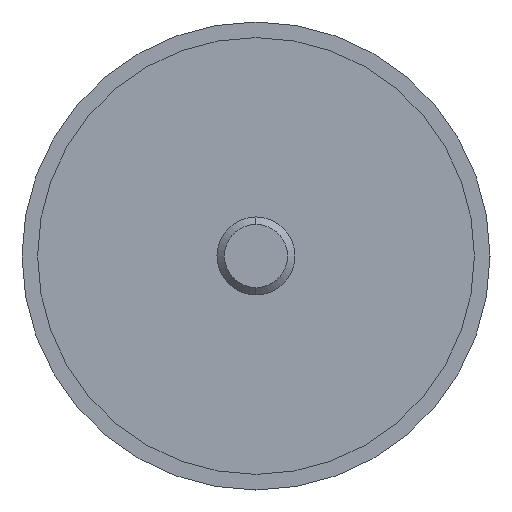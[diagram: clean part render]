
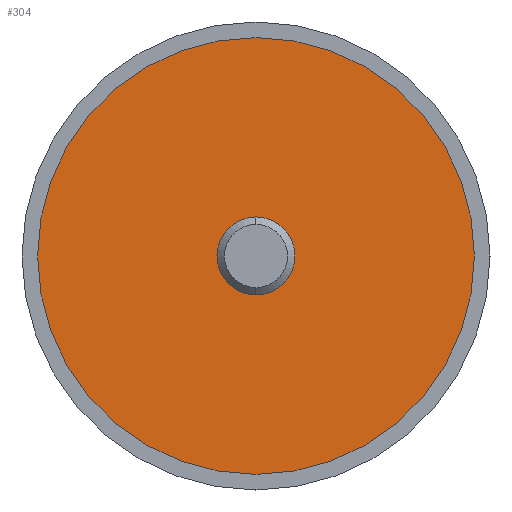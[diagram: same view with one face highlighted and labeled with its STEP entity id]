
A CAD part, left-side view. The second image highlights one B-rep face of the part: STEP entity #304.
In plain terms, the highlighted planar face has unit normal (-1, 0, 0).
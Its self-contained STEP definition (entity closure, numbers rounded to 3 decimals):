
#2 = DIRECTION ( 'NONE',  ( 1., 0., 0. ) ) ;
#6 = PLANE ( 'NONE',  #645 ) ;
#13 = DIRECTION ( 'NONE',  ( 0., 0., 1. ) ) ;
#15 = CARTESIAN_POINT ( 'NONE',  ( -14.99, 0., 0. ) ) ;
#18 = CIRCLE ( 'NONE', #605, 28. ) ;
#68 = CARTESIAN_POINT ( 'NONE',  ( -14.99, 0., 0. ) ) ;
#71 = DIRECTION ( 'NONE',  ( 0., 0., -1. ) ) ;
#100 = EDGE_CURVE ( 'NONE', #420, #115, #644, .T. ) ;
#106 = EDGE_LOOP ( 'NONE', ( #309, #149 ) ) ;
#115 = VERTEX_POINT ( 'NONE', #131 ) ;
#131 = CARTESIAN_POINT ( 'NONE',  ( -14.99, 0., -28. ) ) ;
#134 = CARTESIAN_POINT ( 'NONE',  ( -14.99, 0., 5. ) ) ;
#149 = ORIENTED_EDGE ( 'NONE', *, *, #463, .F. ) ;
#178 = AXIS2_PLACEMENT_3D ( 'NONE', #318, #529, #479 ) ;
#208 = EDGE_LOOP ( 'NONE', ( #606, #261 ) ) ;
#216 = FACE_OUTER_BOUND ( 'NONE', #208, .T. ) ;
#224 = DIRECTION ( 'NONE',  ( 0., 0., -1. ) ) ;
#227 = DIRECTION ( 'NONE',  ( -1., 0., 0. ) ) ;
#234 = DIRECTION ( 'NONE',  ( 0., 0., 1. ) ) ;
#261 = ORIENTED_EDGE ( 'NONE', *, *, #511, .T. ) ;
#282 = CIRCLE ( 'NONE', #178, 5. ) ;
#286 = CARTESIAN_POINT ( 'NONE',  ( -14.99, 0., 0. ) ) ;
#304 = ADVANCED_FACE ( 'NONE', ( #216, #310 ), #6, .F. ) ;
#309 = ORIENTED_EDGE ( 'NONE', *, *, #610, .F. ) ;
#310 = FACE_BOUND ( 'NONE', #106, .T. ) ;
#318 = CARTESIAN_POINT ( 'NONE',  ( -14.99, 0., 0. ) ) ;
#328 = CARTESIAN_POINT ( 'NONE',  ( -14.99, 0., -5. ) ) ;
#391 = VERTEX_POINT ( 'NONE', #134 ) ;
#408 = CIRCLE ( 'NONE', #433, 5. ) ;
#420 = VERTEX_POINT ( 'NONE', #586 ) ;
#423 = CARTESIAN_POINT ( 'NONE',  ( -14.99, 28., 0. ) ) ;
#433 = AXIS2_PLACEMENT_3D ( 'NONE', #15, #227, #71 ) ;
#463 = EDGE_CURVE ( 'NONE', #510, #391, #408, .T. ) ;
#479 = DIRECTION ( 'NONE',  ( 0., 0., -1. ) ) ;
#489 = DIRECTION ( 'NONE',  ( -1., 0., 0. ) ) ;
#510 = VERTEX_POINT ( 'NONE', #328 ) ;
#511 = EDGE_CURVE ( 'NONE', #115, #420, #18, .T. ) ;
#513 = AXIS2_PLACEMENT_3D ( 'NONE', #286, #649, #234 ) ;
#529 = DIRECTION ( 'NONE',  ( -1., 0., 0. ) ) ;
#586 = CARTESIAN_POINT ( 'NONE',  ( -14.99, 0., 28. ) ) ;
#605 = AXIS2_PLACEMENT_3D ( 'NONE', #68, #489, #13 ) ;
#606 = ORIENTED_EDGE ( 'NONE', *, *, #100, .T. ) ;
#610 = EDGE_CURVE ( 'NONE', #391, #510, #282, .T. ) ;
#644 = CIRCLE ( 'NONE', #513, 28. ) ;
#645 = AXIS2_PLACEMENT_3D ( 'NONE', #423, #2, #224 ) ;
#649 = DIRECTION ( 'NONE',  ( -1., 0., 0. ) ) ;
